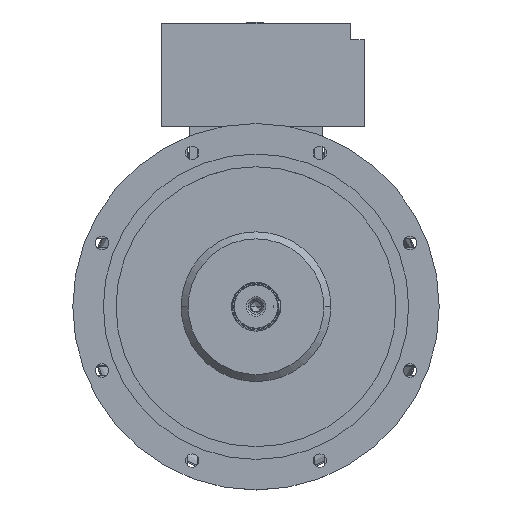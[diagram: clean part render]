
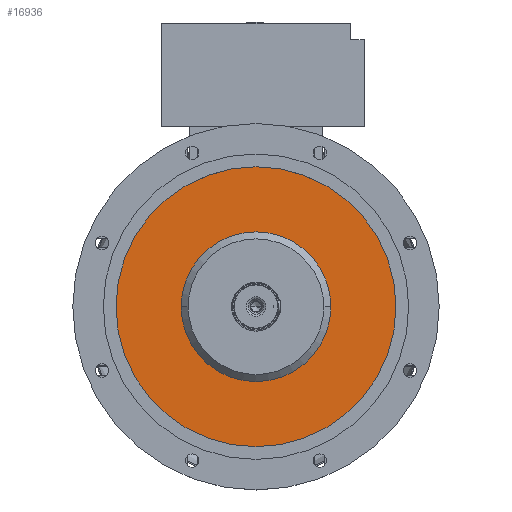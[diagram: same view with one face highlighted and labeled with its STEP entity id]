
A CAD part, top view. The second image highlights one B-rep face of the part: STEP entity #16936.
In plain terms, the highlighted planar face has unit normal (0, 0, 1).
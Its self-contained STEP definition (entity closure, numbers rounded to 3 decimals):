
#707 = DIRECTION ( 'NONE',  ( 0., 0., 1. ) ) ;
#915 = VERTEX_POINT ( 'NONE', #20254 ) ;
#3846 = CARTESIAN_POINT ( 'NONE',  ( 134.8, 0., 455.4 ) ) ;
#3909 = CARTESIAN_POINT ( 'NONE',  ( 0., 0., 455.4 ) ) ;
#4218 = AXIS2_PLACEMENT_3D ( 'NONE', #9875, #23361, #13749 ) ;
#4615 = DIRECTION ( 'NONE',  ( -1., 0., 0. ) ) ;
#5995 = PLANE ( 'NONE',  #4218 ) ;
#6019 = AXIS2_PLACEMENT_3D ( 'NONE', #8535, #20306, #4615 ) ;
#6256 = EDGE_CURVE ( 'NONE', #15655, #915, #8081, .T. ) ;
#6377 = ORIENTED_EDGE ( 'NONE', *, *, #8315, .T. ) ;
#7103 = ORIENTED_EDGE ( 'NONE', *, *, #23645, .T. ) ;
#7528 = EDGE_LOOP ( 'NONE', ( #8873, #21528 ) ) ;
#8081 = CIRCLE ( 'NONE', #8222, 134.8 ) ;
#8222 = AXIS2_PLACEMENT_3D ( 'NONE', #14271, #10326, #15874 ) ;
#8315 = EDGE_CURVE ( 'NONE', #22688, #10343, #19150, .T. ) ;
#8535 = CARTESIAN_POINT ( 'NONE',  ( 0., 0., 455.4 ) ) ;
#8873 = ORIENTED_EDGE ( 'NONE', *, *, #18068, .T. ) ;
#9754 = AXIS2_PLACEMENT_3D ( 'NONE', #3909, #13635, #17307 ) ;
#9875 = CARTESIAN_POINT ( 'NONE',  ( 0., 252.083, 455.4 ) ) ;
#10325 = CARTESIAN_POINT ( 'NONE',  ( 252.083, 0., 455.4 ) ) ;
#10326 = DIRECTION ( 'NONE',  ( 0., 0., -1. ) ) ;
#10343 = VERTEX_POINT ( 'NONE', #10325 ) ;
#13635 = DIRECTION ( 'NONE',  ( 0., 0., -1. ) ) ;
#13749 = DIRECTION ( 'NONE',  ( 1., 0., 0. ) ) ;
#14271 = CARTESIAN_POINT ( 'NONE',  ( 0., 0., 455.4 ) ) ;
#15655 = VERTEX_POINT ( 'NONE', #3846 ) ;
#15874 = DIRECTION ( 'NONE',  ( -1., 0., 0. ) ) ;
#16428 = FACE_BOUND ( 'NONE', #7528, .T. ) ;
#16936 = ADVANCED_FACE ( 'NONE', ( #21545, #16428 ), #5995, .T. ) ;
#17307 = DIRECTION ( 'NONE',  ( -1., 0., 0. ) ) ;
#18068 = EDGE_CURVE ( 'NONE', #915, #15655, #21252, .T. ) ;
#18088 = CARTESIAN_POINT ( 'NONE',  ( 0., 0., 455.4 ) ) ;
#19150 = CIRCLE ( 'NONE', #6019, 252.083 ) ;
#19244 = CIRCLE ( 'NONE', #24783, 252.083 ) ;
#20254 = CARTESIAN_POINT ( 'NONE',  ( -134.8, 0., 455.4 ) ) ;
#20306 = DIRECTION ( 'NONE',  ( 0., 0., 1. ) ) ;
#20428 = EDGE_LOOP ( 'NONE', ( #6377, #7103 ) ) ;
#21252 = CIRCLE ( 'NONE', #9754, 134.8 ) ;
#21528 = ORIENTED_EDGE ( 'NONE', *, *, #6256, .T. ) ;
#21545 = FACE_OUTER_BOUND ( 'NONE', #20428, .T. ) ;
#21711 = DIRECTION ( 'NONE',  ( -1., 0., 0. ) ) ;
#22688 = VERTEX_POINT ( 'NONE', #24906 ) ;
#23361 = DIRECTION ( 'NONE',  ( 0., 0., 1. ) ) ;
#23645 = EDGE_CURVE ( 'NONE', #10343, #22688, #19244, .T. ) ;
#24783 = AXIS2_PLACEMENT_3D ( 'NONE', #18088, #707, #21711 ) ;
#24906 = CARTESIAN_POINT ( 'NONE',  ( -252.083, 0., 455.4 ) ) ;
